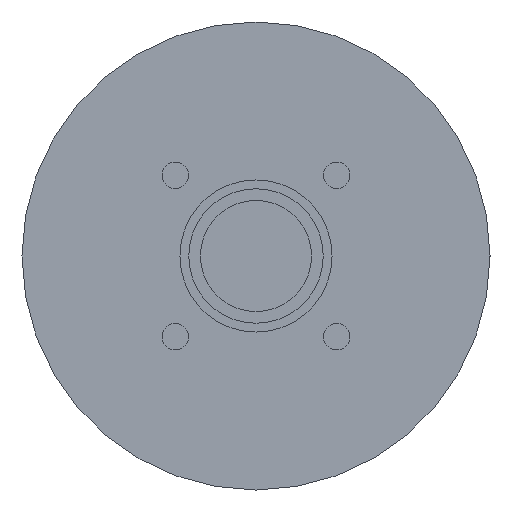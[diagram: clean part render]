
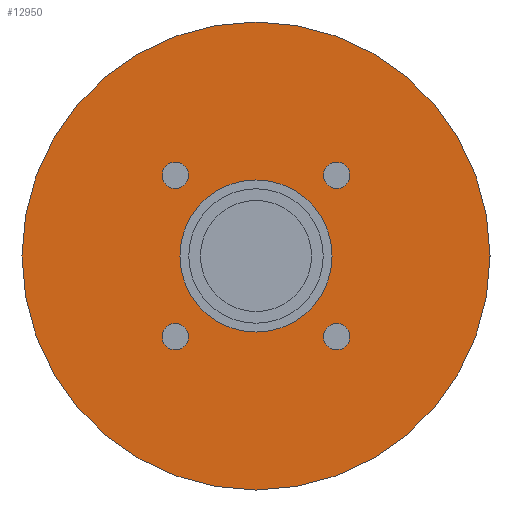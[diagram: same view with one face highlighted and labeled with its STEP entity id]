
A CAD part, left-side view. The second image highlights one B-rep face of the part: STEP entity #12950.
In plain terms, the highlighted planar face has unit normal (-1, 0, 0) as drawn and (0, 0, -1) by its records, which use the part's own axes.
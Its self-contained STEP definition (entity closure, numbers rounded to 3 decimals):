
#11730=CARTESIAN_POINT('',(0.,0.,
-42.2));
#11740=DIRECTION('',(0.,0.,-1.));
#11750=DIRECTION('',(0.,-1.,0.));
#11760=AXIS2_PLACEMENT_3D('',#11730,#11740,#11750);
#11770=CIRCLE('',#11760,40.);
#11780=CARTESIAN_POINT('',(0.,-40.,-42.2));
#11790=VERTEX_POINT('',#11780);
#11800=CARTESIAN_POINT('',(-40.,0.,-42.2));
#11810=VERTEX_POINT('',#11800);
#11820=EDGE_CURVE('',#11790,#11810,#11770,.T.);
#11960=CARTESIAN_POINT('',(40.,0.,-42.2));
#11970=VERTEX_POINT('',#11960);
#12000=EDGE_CURVE('',#11970,#11790,#11770,.T.);
#12050=CARTESIAN_POINT('',(0.,0.,
-42.2));
#12060=DIRECTION('',(0.,0.,-1.));
#12070=DIRECTION('',(1.,0.,0.));
#12080=AXIS2_PLACEMENT_3D('',#12050,#12060,#12070);
#12090=PLANE('',#12080);
#12100=CARTESIAN_POINT('',(13.789,13.789,-42.2));
#12110=DIRECTION('',(0.,0.,-1.));
#12120=DIRECTION('',(0.,1.,0.));
#12130=AXIS2_PLACEMENT_3D('',#12100,#12110,#12120);
#12140=CIRCLE('',#12130,2.25);
#12150=CARTESIAN_POINT('',(13.789,16.039,-42.2));
#12160=VERTEX_POINT('',#12150);
#12170=CARTESIAN_POINT('',(13.789,11.539,-42.2));
#12180=VERTEX_POINT('',#12170);
#12190=EDGE_CURVE('',#12160,#12180,#12140,.T.);
#12200=ORIENTED_EDGE('',*,*,#12190,.F.);
#12210=EDGE_CURVE('',#12180,#12160,#12140,.T.);
#12220=ORIENTED_EDGE('',*,*,#12210,.F.);
#12230=EDGE_LOOP('',(#12220,#12200));
#12240=FACE_BOUND('',#12230,.T.);
#12250=CARTESIAN_POINT('',(-13.789,13.789,-42.2));
#12260=DIRECTION('',(0.,0.,-1.));
#12270=DIRECTION('',(-1.,0.,0.));
#12280=AXIS2_PLACEMENT_3D('',#12250,#12260,#12270);
#12290=CIRCLE('',#12280,2.25);
#12300=CARTESIAN_POINT('',(-16.039,13.789,-42.2));
#12310=VERTEX_POINT('',#12300);
#12320=CARTESIAN_POINT('',(-11.539,13.789,-42.2));
#12330=VERTEX_POINT('',#12320);
#12340=EDGE_CURVE('',#12310,#12330,#12290,.T.);
#12350=ORIENTED_EDGE('',*,*,#12340,.F.);
#12360=EDGE_CURVE('',#12330,#12310,#12290,.T.);
#12370=ORIENTED_EDGE('',*,*,#12360,.F.);
#12380=EDGE_LOOP('',(#12370,#12350));
#12390=FACE_BOUND('',#12380,.T.);
#12400=CARTESIAN_POINT('',(-13.789,-13.789,-42.2));
#12410=DIRECTION('',(0.,0.,-1.));
#12420=DIRECTION('',(0.,-1.,0.));
#12430=AXIS2_PLACEMENT_3D('',#12400,#12410,#12420);
#12440=CIRCLE('',#12430,2.25);
#12450=CARTESIAN_POINT('',(-13.789,-16.039,-42.2));
#12460=VERTEX_POINT('',#12450);
#12470=CARTESIAN_POINT('',(-13.789,-11.539,-42.2));
#12480=VERTEX_POINT('',#12470);
#12490=EDGE_CURVE('',#12460,#12480,#12440,.T.);
#12500=ORIENTED_EDGE('',*,*,#12490,.F.);
#12510=EDGE_CURVE('',#12480,#12460,#12440,.T.);
#12520=ORIENTED_EDGE('',*,*,#12510,.F.);
#12530=EDGE_LOOP('',(#12520,#12500));
#12540=FACE_BOUND('',#12530,.T.);
#12550=CARTESIAN_POINT('',(0.,0.,
-42.2));
#12560=DIRECTION('',(0.,0.,1.));
#12570=DIRECTION('',(0.,1.,0.));
#12580=AXIS2_PLACEMENT_3D('',#12550,#12560,#12570);
#12590=CIRCLE('',#12580,13.);
#12600=CARTESIAN_POINT('',(-13.,0.,-42.2));
#12610=VERTEX_POINT('',#12600);
#12620=CARTESIAN_POINT('',(13.,0.,-42.2));
#12630=VERTEX_POINT('',#12620);
#12640=EDGE_CURVE('',#12610,#12630,#12590,.T.);
#12650=ORIENTED_EDGE('',*,*,#12640,.T.);
#12660=CARTESIAN_POINT('',(0.,13.,-42.2));
#12670=VERTEX_POINT('',#12660);
#12680=EDGE_CURVE('',#12670,#12610,#12590,.T.);
#12690=ORIENTED_EDGE('',*,*,#12680,.T.);
#12700=EDGE_CURVE('',#12630,#12670,#12590,.T.);
#12710=ORIENTED_EDGE('',*,*,#12700,.T.);
#12720=EDGE_LOOP('',(#12710,#12690,#12650));
#12730=FACE_BOUND('',#12720,.T.);
#12740=CARTESIAN_POINT('',(13.789,-13.789,-42.2));
#12750=DIRECTION('',(0.,0.,-1.));
#12760=DIRECTION('',(1.,0.,0.));
#12770=AXIS2_PLACEMENT_3D('',#12740,#12750,#12760);
#12780=CIRCLE('',#12770,2.25);
#12790=CARTESIAN_POINT('',(16.039,-13.789,-42.2));
#12800=VERTEX_POINT('',#12790);
#12810=CARTESIAN_POINT('',(11.539,-13.789,-42.2));
#12820=VERTEX_POINT('',#12810);
#12830=EDGE_CURVE('',#12800,#12820,#12780,.T.);
#12840=ORIENTED_EDGE('',*,*,#12830,.F.);
#12850=EDGE_CURVE('',#12820,#12800,#12780,.T.);
#12860=ORIENTED_EDGE('',*,*,#12850,.F.);
#12870=EDGE_LOOP('',(#12860,#12840));
#12880=FACE_BOUND('',#12870,.T.);
#12890=EDGE_CURVE('',#11810,#11970,#11770,.T.);
#12900=ORIENTED_EDGE('',*,*,#12890,.T.);
#12910=ORIENTED_EDGE('',*,*,#11820,.T.);
#12920=ORIENTED_EDGE('',*,*,#12000,.T.);
#12930=EDGE_LOOP('',(#12920,#12910,#12900));
#12940=FACE_OUTER_BOUND('',#12930,.T.);
#12950=ADVANCED_FACE('',(#12240,#12390,#12540,#12730,#12880,#12940),
#12090,.T.);
